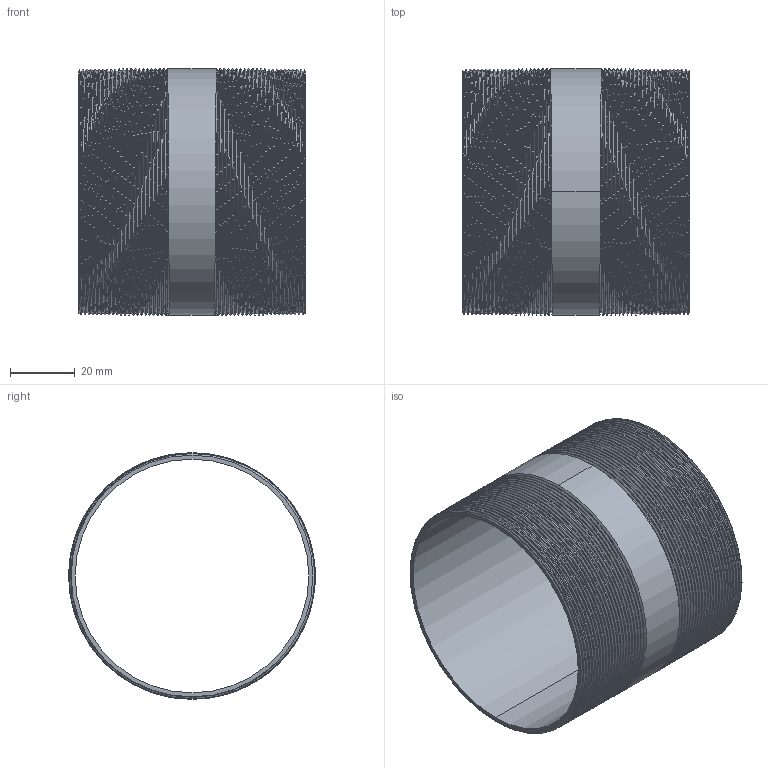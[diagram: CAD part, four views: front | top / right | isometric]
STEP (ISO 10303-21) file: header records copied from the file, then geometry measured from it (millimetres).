
FILE_DESCRIPTION (( 'STEP AP203' ), '1' );
FILE_NAME ('3D_R210_2 1-2x70_17148630.STEP', '2024-08-16T10:15:20', ( '' ), ( '' ), 'SwSTEP 2.0', 'SolidWorks 2024', '' );
FILE_SCHEMA (( 'CONFIG_CONTROL_DESIGN' ));
Length unit declared in the file: millimetre
Products named in the file (1): 3D_R210_2 1-2x70_17148630
Bounding box: 70 x 76.07 x 76.1 mm (x, y, z)
Volume: 27269.3 mm3; surface area: 40155.4 mm2
Topology: 1 solids, 1 shells, 106 faces, 306 edges, 202 vertices
Faces by surface type: cone 92, bspline 6, cylinder 4, plane 4
Entity records: 20059 total; most frequent: CARTESIAN_POINT 17595, ORIENTED_EDGE 612, DIRECTION 328, EDGE_CURVE 306, VERTEX_POINT 202, B_SPLINE_CURVE_WITH_KNOTS 184, AXIS2_PLACEMENT_3D 113, EDGE_LOOP 108
